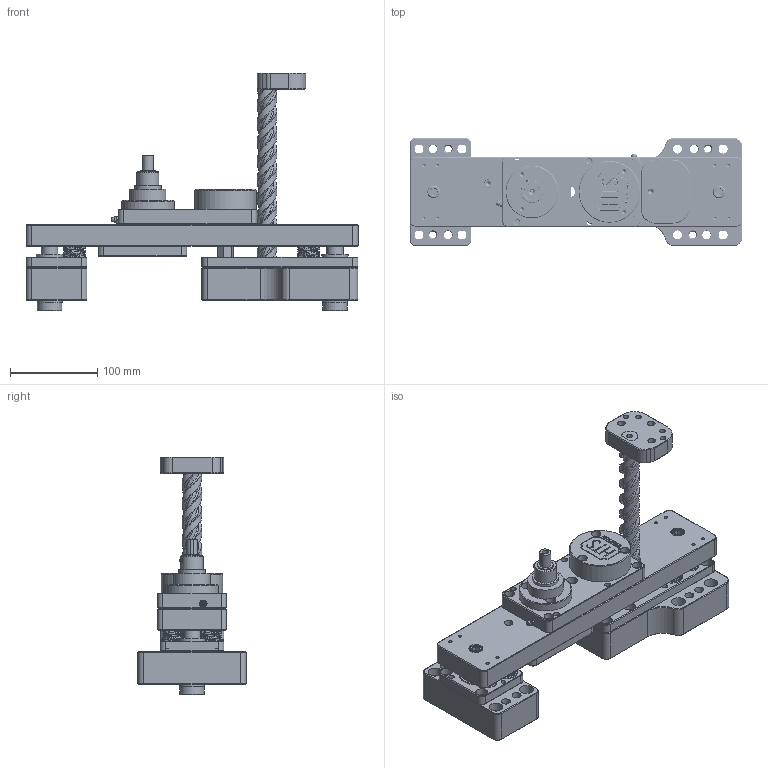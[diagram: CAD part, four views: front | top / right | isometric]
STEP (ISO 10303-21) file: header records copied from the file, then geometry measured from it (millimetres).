
FILE_DESCRIPTION(/* description */ ('Unknown'),/* implementation_level */ '2;1');
FILE_NAME(/* name */ '3100-5 in strk',/* time_stamp */ '2018-07-24T14:26:38-04:00',/* author */ ('Unknown'),/* organization */ ('Unknown'),/* preprocessor_version */ 'ST-DEVELOPER v16.7',/* originating_system */ 'DEX',/* authorisation */ $);
FILE_SCHEMA (('AUTOMOTIVE_DESIGN {1 0 10303 214 3 1 1}'));
Products named in the file (28): 3100-000 new std; 3107C-000C; Tap 6-32; 3118-000; 3126-001; 3127-001; 3022-632; 3107A-000C; 3107B-000C; 3129-200; 3012-000; 3147-000; 3106A-000-STD; 3106B-000-STD; 3011-005FA; 3025-000; 3020-032; 3008-000; 3136-168; 3017-000; 3137A-000-STD; 3137B-000-STD; 3121-000; 3138B-075; 3_8-16X750_SHCS; BUSHING-BU-_75ID-1_985LONG_BUSH; 3138-300; 3119-000
Assembly tree (35 placements, depth 2):
  3100-000 new std
    3107C-000C
    Tap 6-32
    3118-000
    3126-001
    3127-001
    3022-632
    3107A-000C
    3107B-000C
    3129-200  x4
    3012-000
    3147-000
    3106A-000-STD
    3106B-000-STD
    3011-005FA
    3025-000
    3020-032
    3008-000
    3136-168
    3017-000  x2
    3137A-000-STD
    3137B-000-STD
    3121-000
    3138B-075  x2
    3_8-16X750_SHCS  x2
    BUSHING-BU-_75ID-1_985LONG_BUSH  x2
    3138-300  x2
    3119-000
Bounding box: 380.37 x 123.83 x 272.67 mm (x, y, z)
Volume: 2291822.9 mm3; surface area: 548850.3 mm2
Topology: 35 solids, 35 shells, 1433 faces, 3812 edges, 2546 vertices
Faces by surface type: plane 563, cylinder 514, cone 227, bspline 78, torus 47, sphere 4
Full cylindrical faces by diameter (mm): 1.587 x4, 1.981 x4, 2.769 x1, 3.175 x1, 3.454 x6, 3.551 x6, 3.581 x1, 3.797 x8, 4.166 x5, 4.915 x1, 5.105 x8, 5.156 x12, 5.954 x2, 6.35 x25, 6.528 x12, 7.137 x1, 7.142 x9, 7.144 x9, 7.849 x1, 7.938 x18, 8.73 x1, 8.731 x3, 8.733 x9, 8.763 x1, 9.058 x1, 9.525 x10, 10.312 x4, 10.317 x18, 11.113 x14, 11.824 x1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
Entity records: 75744 total; most frequent: CARTESIAN_POINT 43418, DIRECTION 5118, ORIENTED_EDGE 4740, EDGE_CURVE 2370, AXIS2_PLACEMENT_3D 2067, FACE_BOUND 1894, EDGE_LOOP 1865, VERTEX_POINT 1776
